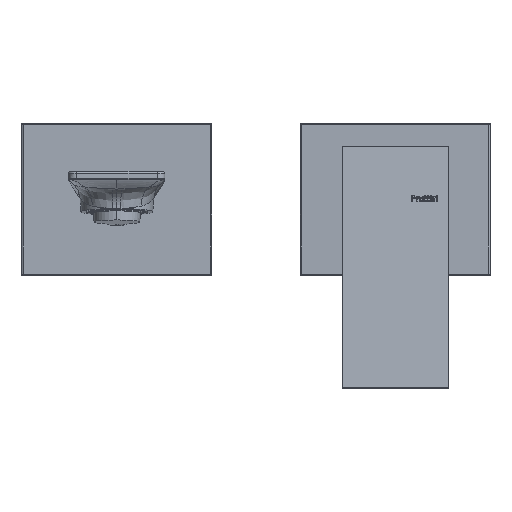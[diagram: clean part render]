
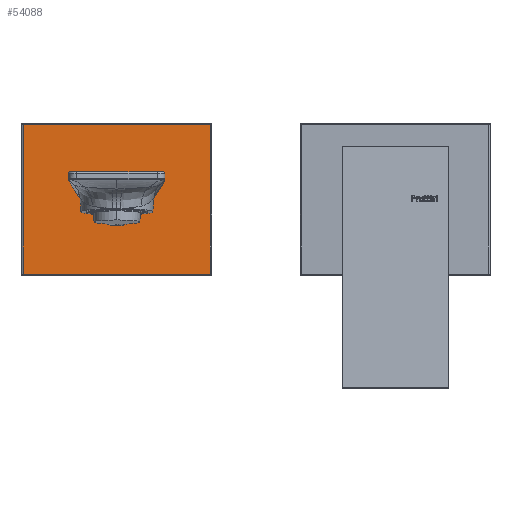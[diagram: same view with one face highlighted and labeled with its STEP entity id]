
A CAD part, top view. The second image highlights one B-rep face of the part: STEP entity #54088.
In plain terms, the highlighted planar face has unit normal (0, 0, 1) as drawn and (0, 1, 0) by its records, which use the part's own axes.
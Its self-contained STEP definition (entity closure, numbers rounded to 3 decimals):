
#53894=CARTESIAN_POINT('',(0.,2.,0.));
#53895=DIRECTION('',(0.,1.,0.));
#53896=DIRECTION('',(1.,0.,0.));
#53897=AXIS2_PLACEMENT_3D('',#53894,#53895,#53896);
#53899=CARTESIAN_POINT('',(0.,2.,0.));
#53900=DIRECTION('',(0.,1.,0.));
#53901=DIRECTION('',(-1.,0.,0.));
#53902=AXIS2_PLACEMENT_3D('',#53899,#53900,#53901);
#53904=DIRECTION('',(0.,0.,1.));
#53905=VECTOR('',#53904,74.);
#53906=CARTESIAN_POINT('',(-29.5,2.,-37.));
#53907=LINE('',#53906,#53905);
#53908=DIRECTION('',(-1.,0.,0.));
#53909=VECTOR('',#53908,59.);
#53910=CARTESIAN_POINT('',(29.5,2.,-37.));
#53911=LINE('',#53910,#53909);
#53912=DIRECTION('',(0.,0.,-1.));
#53913=VECTOR('',#53912,74.);
#53914=CARTESIAN_POINT('',(29.5,2.,37.));
#53915=LINE('',#53914,#53913);
#53916=DIRECTION('',(1.,0.,0.));
#53917=VECTOR('',#53916,59.);
#53918=CARTESIAN_POINT('',(-29.5,2.,37.));
#53919=LINE('',#53918,#53917);
#53974=CARTESIAN_POINT('',(9.75,2.,0.));
#53975=CARTESIAN_POINT('',(-9.75,2.,0.));
#53976=VERTEX_POINT('',#53974);
#53977=VERTEX_POINT('',#53975);
#53986=CARTESIAN_POINT('',(-29.5,2.,-37.));
#53987=CARTESIAN_POINT('',(-29.5,2.,37.));
#53988=VERTEX_POINT('',#53986);
#53989=VERTEX_POINT('',#53987);
#53996=CARTESIAN_POINT('',(29.5,2.,37.));
#53997=VERTEX_POINT('',#53996);
#54000=CARTESIAN_POINT('',(29.5,2.,-37.));
#54001=VERTEX_POINT('',#54000);
#54069=CARTESIAN_POINT('',(0.,2.,0.));
#54070=DIRECTION('',(0.,1.,0.));
#54071=DIRECTION('',(1.,0.,0.));
#54072=AXIS2_PLACEMENT_3D('',#54069,#54070,#54071);
#54073=PLANE('',#54072);
#54074=ORIENTED_EDGE('',*,*,#54059,.F.);
#54076=ORIENTED_EDGE('',*,*,#54075,.F.);
#54078=ORIENTED_EDGE('',*,*,#54077,.F.);
#54079=ORIENTED_EDGE('',*,*,#54047,.F.);
#54080=EDGE_LOOP('',(#54074,#54076,#54078,#54079));
#54081=FACE_OUTER_BOUND('',#54080,.F.);
#54083=ORIENTED_EDGE('',*,*,#54082,.T.);
#54085=ORIENTED_EDGE('',*,*,#54084,.T.);
#54086=EDGE_LOOP('',(#54083,#54085));
#54087=FACE_BOUND('',#54086,.F.);
#54088=ADVANCED_FACE('',(#54081,#54087),#54073,.T.);
#53898=CIRCLE('',#53897,9.75);
#53903=CIRCLE('',#53902,9.75);
#54047=EDGE_CURVE('',#53989,#53997,#53919,.T.);
#54059=EDGE_CURVE('',#53988,#53989,#53907,.T.);
#54075=EDGE_CURVE('',#54001,#53988,#53911,.T.);
#54077=EDGE_CURVE('',#53997,#54001,#53915,.T.);
#54082=EDGE_CURVE('',#53976,#53977,#53898,.T.);
#54084=EDGE_CURVE('',#53977,#53976,#53903,.T.);
